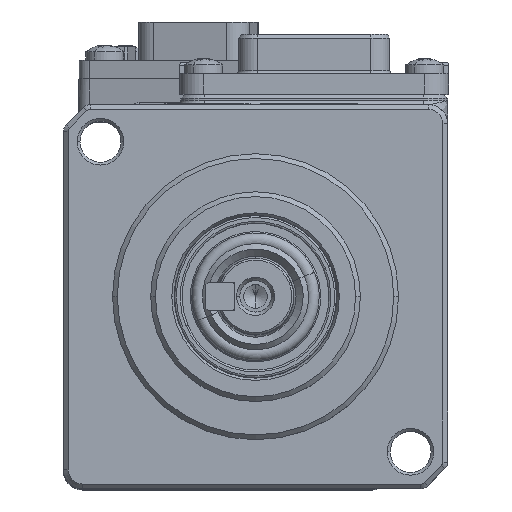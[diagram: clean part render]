
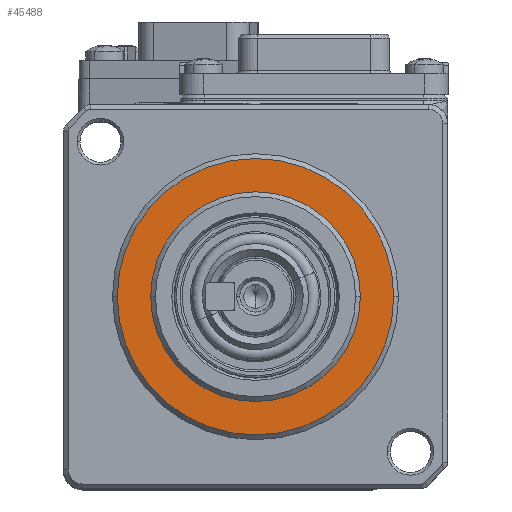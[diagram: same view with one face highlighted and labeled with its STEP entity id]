
A CAD part, top view. The second image highlights one B-rep face of the part: STEP entity #45488.
In plain terms, the highlighted planar face has unit normal (0, 0, 1).
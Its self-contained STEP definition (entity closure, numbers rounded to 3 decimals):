
#2371 = DIRECTION ( 'NONE',  ( -1., 0., 0. ) ) ;
#2834 = DIRECTION ( 'NONE',  ( 0., 0., -1. ) ) ;
#4340 = ORIENTED_EDGE ( 'NONE', *, *, #6856, .F. ) ;
#4437 = AXIS2_PLACEMENT_3D ( 'NONE', #20583, #13458, #42335 ) ;
#5338 = DIRECTION ( 'NONE',  ( -1., 0., 0. ) ) ;
#5782 = CARTESIAN_POINT ( 'NONE',  ( 0., 0., -3. ) ) ;
#6856 = EDGE_CURVE ( 'NONE', #79283, #45128, #37661, .T. ) ;
#7590 = FACE_BOUND ( 'NONE', #52164, .T. ) ;
#12295 = CARTESIAN_POINT ( 'NONE',  ( -14.5, 0., -3. ) ) ;
#13458 = DIRECTION ( 'NONE',  ( 0., 0., -1. ) ) ;
#14728 = PLANE ( 'NONE',  #50803 ) ;
#15366 = CARTESIAN_POINT ( 'NONE',  ( -11., 0., -3. ) ) ;
#15695 = CARTESIAN_POINT ( 'NONE',  ( 0., 15.3, -3. ) ) ;
#16172 = DIRECTION ( 'NONE',  ( 0., 0., -1. ) ) ;
#20583 = CARTESIAN_POINT ( 'NONE',  ( 0., 0., -3. ) ) ;
#23185 = EDGE_LOOP ( 'NONE', ( #4340, #52161 ) ) ;
#26257 = ORIENTED_EDGE ( 'NONE', *, *, #36228, .T. ) ;
#27198 = CIRCLE ( 'NONE', #4437, 11. ) ;
#28461 = DIRECTION ( 'NONE',  ( 1., 0., 0. ) ) ;
#30857 = AXIS2_PLACEMENT_3D ( 'NONE', #5782, #34714, #5338 ) ;
#34714 = DIRECTION ( 'NONE',  ( 0., 0., -1. ) ) ;
#36228 = EDGE_CURVE ( 'NONE', #38334, #53006, #27198, .T. ) ;
#36502 = FACE_OUTER_BOUND ( 'NONE', #23185, .T. ) ;
#37661 = CIRCLE ( 'NONE', #52722, 14.5 ) ;
#38334 = VERTEX_POINT ( 'NONE', #15366 ) ;
#42335 = DIRECTION ( 'NONE',  ( -1., 0., 0. ) ) ;
#45128 = VERTEX_POINT ( 'NONE', #61521 ) ;
#45227 = CIRCLE ( 'NONE', #87679, 11. ) ;
#45488 = ADVANCED_FACE ( 'NONE', ( #36502, #7590 ), #14728, .T. ) ;
#50255 = DIRECTION ( 'NONE',  ( 0., 0., 1. ) ) ;
#50803 = AXIS2_PLACEMENT_3D ( 'NONE', #15695, #50255, #28461 ) ;
#52161 = ORIENTED_EDGE ( 'NONE', *, *, #72282, .F. ) ;
#52164 = EDGE_LOOP ( 'NONE', ( #26257, #52896 ) ) ;
#52722 = AXIS2_PLACEMENT_3D ( 'NONE', #81078, #16172, #89097 ) ;
#52896 = ORIENTED_EDGE ( 'NONE', *, *, #66779, .T. ) ;
#53006 = VERTEX_POINT ( 'NONE', #79204 ) ;
#56569 = CIRCLE ( 'NONE', #30857, 14.5 ) ;
#61521 = CARTESIAN_POINT ( 'NONE',  ( 14.5, 0., -3. ) ) ;
#66779 = EDGE_CURVE ( 'NONE', #53006, #38334, #45227, .T. ) ;
#66832 = CARTESIAN_POINT ( 'NONE',  ( 0., 0., -3. ) ) ;
#72282 = EDGE_CURVE ( 'NONE', #45128, #79283, #56569, .T. ) ;
#79204 = CARTESIAN_POINT ( 'NONE',  ( 11., 0., -3. ) ) ;
#79283 = VERTEX_POINT ( 'NONE', #12295 ) ;
#81078 = CARTESIAN_POINT ( 'NONE',  ( 0., 0., -3. ) ) ;
#87679 = AXIS2_PLACEMENT_3D ( 'NONE', #66832, #2834, #2371 ) ;
#89097 = DIRECTION ( 'NONE',  ( -1., 0., 0. ) ) ;
